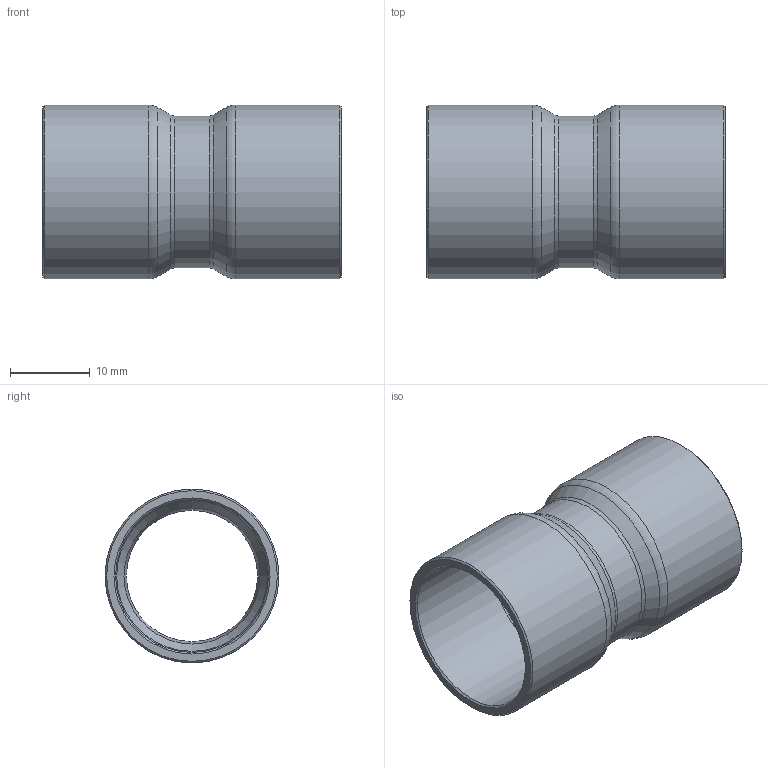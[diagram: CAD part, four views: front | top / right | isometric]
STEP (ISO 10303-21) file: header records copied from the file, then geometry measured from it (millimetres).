
FILE_DESCRIPTION((''),'2;1');
FILE_NAME('G:\SANHA-Ternat\Technik\Management\Bouwmaten + markeringen\z-maattekeningen 3D\29000s\2927034_3d.stp','2017-08-03T14:16:42',('vdvijverd'),(''),'Autodesk Inventor 2009','Autodesk Inventor 2009','');
FILE_SCHEMA(('AUTOMOTIVE_DESIGN { 1 0 10303 214 1 1 1 1 }'));
Length unit declared in the file: millimetre
Products named in the file (1): 2927034_3d
Bounding box: 37.5 x 21.8 x 21.8 mm (x, y, z)
Volume: 3125.2 mm3; surface area: 4913.9 mm2
Topology: 1 solids, 1 shells, 24 faces, 46 edges, 24 vertices
Faces by surface type: cone 8, cylinder 6, torus 4, bspline 4, plane 2
Full cylindrical faces by diameter (mm): 16.45 x1, 19.05 x1, 19.17 x2, 21.8 x2
Entity records: 674 total; most frequent: CARTESIAN_POINT 249, DIRECTION 90, ORIENTED_EDGE 48, EDGE_LOOP 48, AXIS2_PLACEMENT_3D 45, VERTEX_POINT 24, CIRCLE 24, EDGE_CURVE 24
